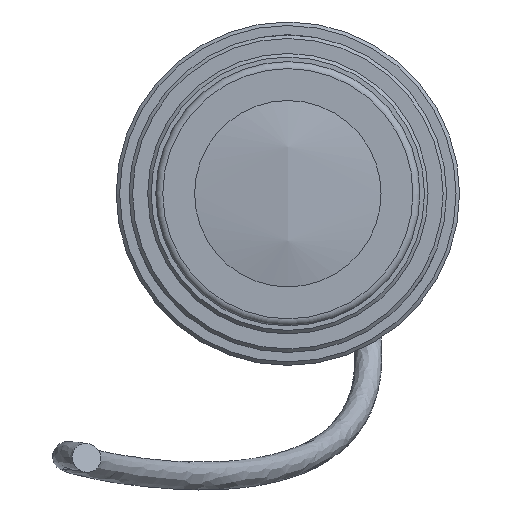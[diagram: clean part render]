
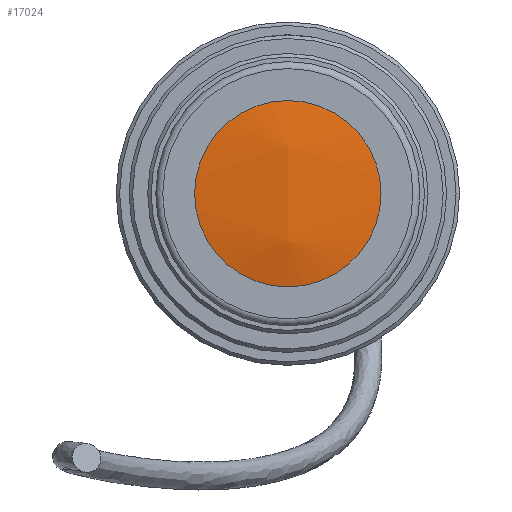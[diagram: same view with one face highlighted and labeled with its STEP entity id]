
A CAD part, front view. The second image highlights one B-rep face of the part: STEP entity #17024.
In plain terms, the highlighted spherical face has radius 57.68 mm.
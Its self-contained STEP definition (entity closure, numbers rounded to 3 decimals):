
#67=SPHERICAL_SURFACE('',#18056,57.68);
#4468=FACE_OUTER_BOUND('',#5384,.T.);
#5384=EDGE_LOOP('',(#11626,#11627));
#6439=CIRCLE('',#18057,13.3);
#6440=CIRCLE('',#18058,13.3);
#7169=VERTEX_POINT('',#35860);
#7170=VERTEX_POINT('',#35861);
#8893=EDGE_CURVE('',#7169,#7170,#6439,.T.);
#8894=EDGE_CURVE('',#7170,#7169,#6440,.T.);
#11626=ORIENTED_EDGE('',*,*,#8893,.F.);
#11627=ORIENTED_EDGE('',*,*,#8894,.F.);
#17024=ADVANCED_FACE('',(#4468),#67,.T.);
#18056=AXIS2_PLACEMENT_3D('',#35859,#20015,#20016);
#18057=AXIS2_PLACEMENT_3D('',#35862,#20017,#20018);
#18058=AXIS2_PLACEMENT_3D('',#35863,#20019,#20020);
#20015=DIRECTION('center_axis',(-1.,0.,0.));
#20016=DIRECTION('ref_axis',(0.,-1.,0.));
#20017=DIRECTION('center_axis',(0.,1.,0.));
#20018=DIRECTION('ref_axis',(-1.,0.,0.));
#20019=DIRECTION('center_axis',(0.,1.,0.));
#20020=DIRECTION('ref_axis',(-1.,0.,0.));
#35859=CARTESIAN_POINT('Origin',(-14.5,13.908,14.5));
#35860=CARTESIAN_POINT('',(-14.5,-42.218,27.8));
#35861=CARTESIAN_POINT('',(-14.5,-42.218,1.2));
#35862=CARTESIAN_POINT('Origin',(-14.5,-42.218,14.5));
#35863=CARTESIAN_POINT('Origin',(-14.5,-42.218,14.5));
